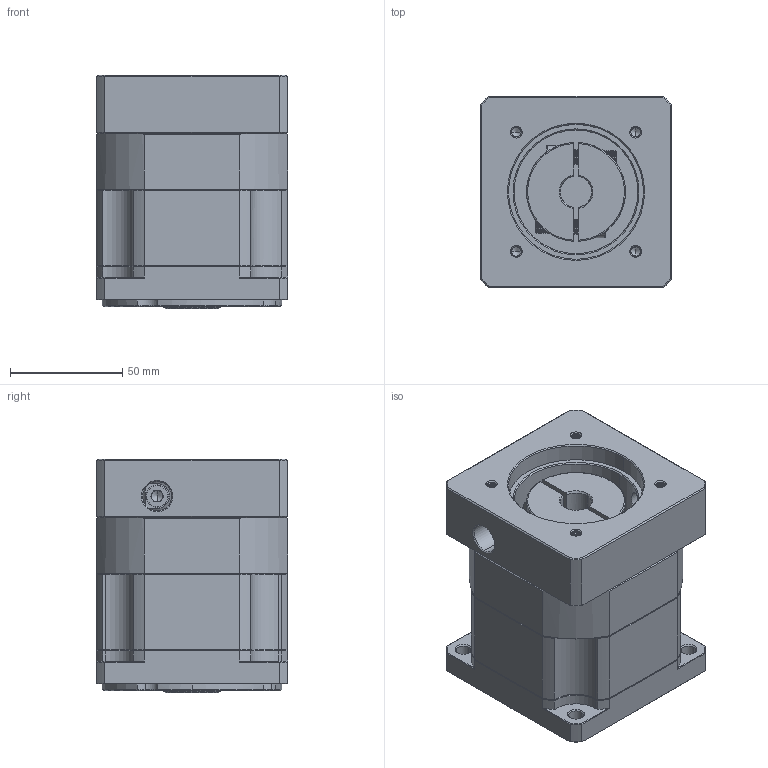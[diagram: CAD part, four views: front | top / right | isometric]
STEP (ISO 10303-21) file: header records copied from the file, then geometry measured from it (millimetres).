
FILE_DESCRIPTION (( 'STEP AP214' ), '1' );
FILE_NAME ('ZB090-K15-L1-P2-14-60-75-M5.step', '2023-08-18T12:16:15', ( '' ), ( '' ), 'SwSTEP 2.0', 'SolidWorks 2016', '' );
FILE_SCHEMA (( 'AUTOMOTIVE_DESIGN' ));
Length unit declared in the file: millimetre
Products named in the file (1): ZB090-K15-L1-P2-14-60-75-M5
Bounding box: 85 x 85 x 104 mm (x, y, z)
Volume: 602043.1 mm3; surface area: 83954.3 mm2
Topology: 4 solids, 5 shells, 2164 faces, 5747 edges, 3667 vertices
Faces by surface type: plane 1055, bspline 390, cylinder 358, cone 336, torus 25
Entity records: 115091 total; most frequent: CARTESIAN_POINT 40677, ORIENTED_EDGE 11454, DIRECTION 9008, EDGE_CURVE 5727, VECTOR 3672, LINE 3672, VERTEX_POINT 3667, AXIS2_PLACEMENT_3D 2668
